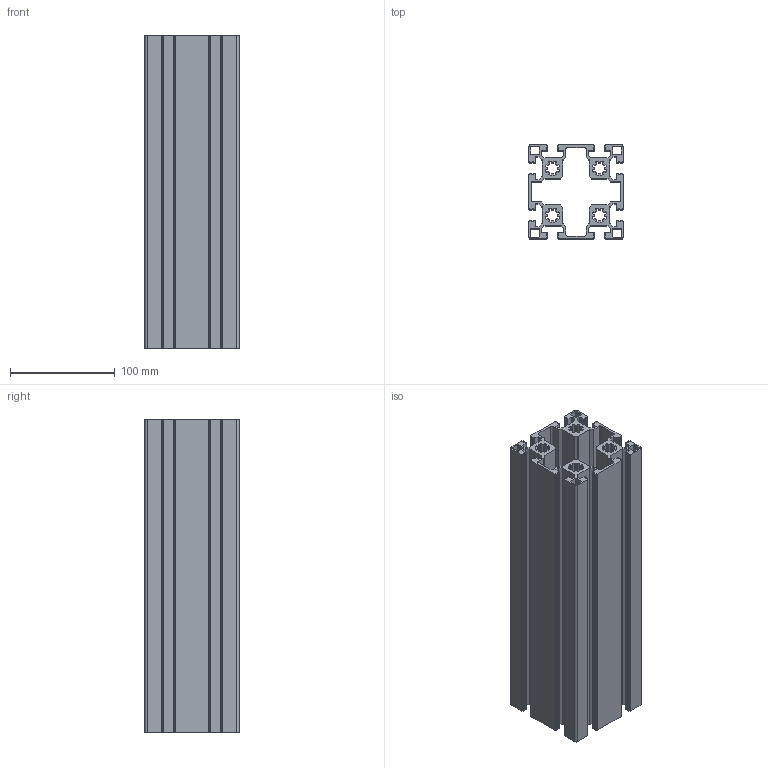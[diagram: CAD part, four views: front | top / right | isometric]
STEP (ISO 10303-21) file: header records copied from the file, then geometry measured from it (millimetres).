
FILE_DESCRIPTION (( 'STEP AP203' ), '1' );
FILE_NAME ('42-CE-9090-10.STEP', '2015-07-07T03:56:34', ( '' ), ( '' ), 'SwSTEP 2.0', 'SolidWorks 2013', '' );
FILE_SCHEMA (( 'CONFIG_CONTROL_DESIGN' ));
Length unit declared in the file: millimetre
Products named in the file (1): 42-CE-9090-10
Bounding box: 90 x 90 x 300 mm (x, y, z)
Volume: 700177.3 mm3; surface area: 432156.7 mm2
Topology: 1 solids, 1 shells, 750 faces, 2244 edges, 1496 vertices
Faces by surface type: cylinder 456, plane 294
Entity records: 25733 total; most frequent: DIRECTION 4658, CARTESIAN_POINT 4491, ORIENTED_EDGE 4488, EDGE_CURVE 2244, AXIS2_PLACEMENT_3D 1663, VERTEX_POINT 1496, VECTOR 1332, LINE 1332
